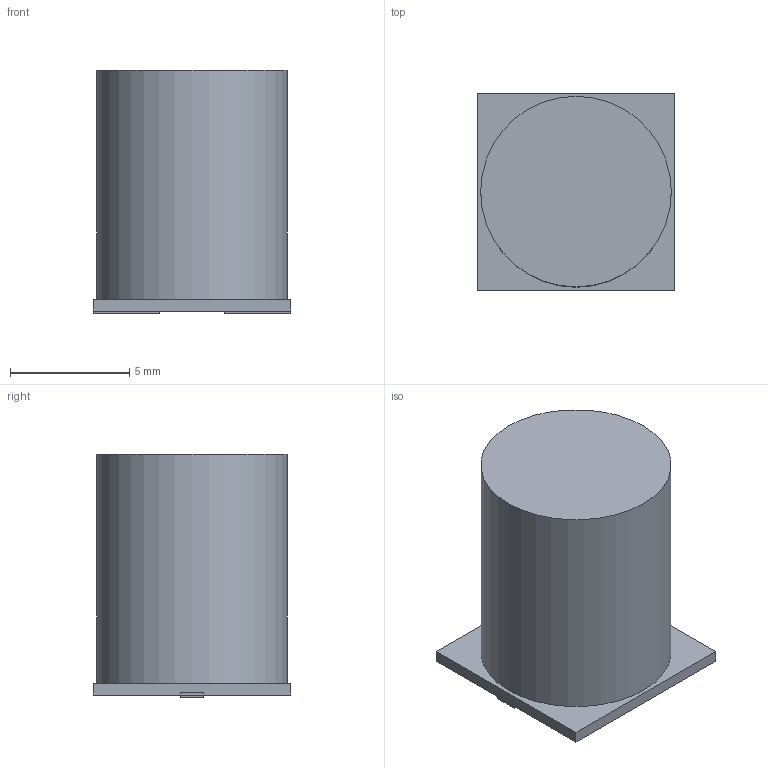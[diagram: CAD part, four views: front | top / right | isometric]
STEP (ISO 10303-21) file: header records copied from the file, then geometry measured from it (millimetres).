
FILE_DESCRIPTION(('Open CASCADE Model'),'2;1');
FILE_NAME('Open CASCADE Shape Model','2026-10-09T15:40:50',('Author'),( 'Open CASCADE'),'Open CASCADE STEP processor 7.7','Open CASCADE 7.7' ,'Unknown');
FILE_SCHEMA(('AUTOMOTIVE_DESIGN { 1 0 10303 214 1 1 1 1 }'));
Length unit declared in the file: millimetre
Products named in the file (4): FK sizeF8mm can; Insulating base 8.3mm; Positive terminal; Negative terminal
Bounding box: 8.3 x 8.3 x 10.2 mm (x, y, z)
Volume: 518.1 mm3; surface area: 510.4 mm2
Topology: 4 solids, 4 shells, 21 faces, 39 edges, 26 vertices
Faces by surface type: plane 20, cylinder 1
Full cylindrical faces by diameter (mm): 8 x1
Entity records: 1098 total; most frequent: CARTESIAN_POINT 165, DIRECTION 163, LINE 113, VECTOR 113, ORIENTED_EDGE 78, PCURVE 78, DEFINITIONAL_REPRESENTATION 78, EDGE_CURVE 39
